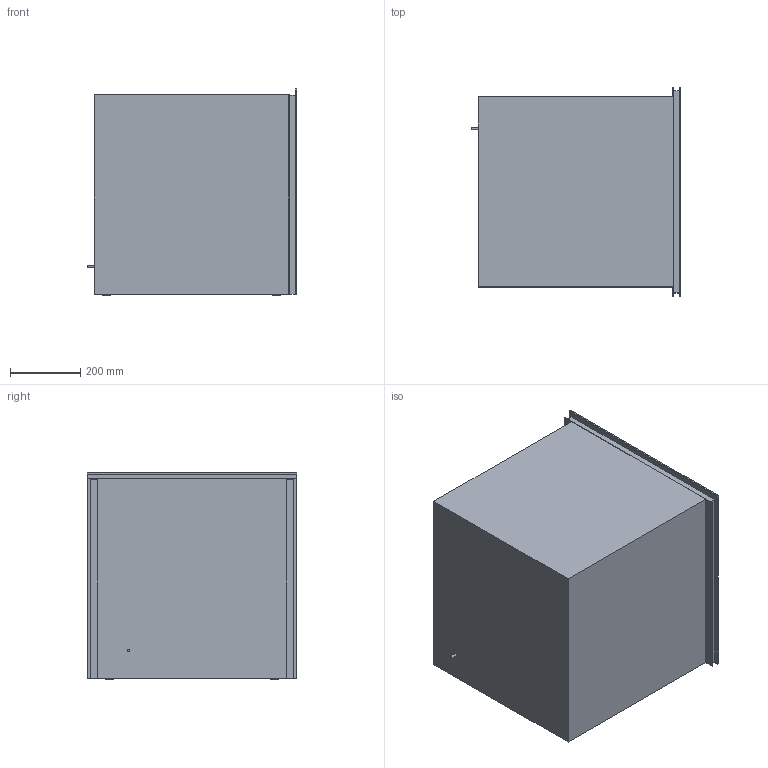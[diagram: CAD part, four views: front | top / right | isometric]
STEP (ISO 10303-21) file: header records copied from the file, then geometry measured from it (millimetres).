
FILE_DESCRIPTION(/* description */ (''),/* implementation_level */ '2;1');
FILE_NAME(/* name */ 'CVI629NR3.stp',/* time_stamp */ '2023-03-07T22:32:52+01:00',/* author */ (''),/* organization */ (''),/* preprocessor_version */ 'ST-DEVELOPER v16',/* originating_system */ 'SIEMENS PLM Software NX 11.0',/* authorisation */ '');
FILE_SCHEMA (('AUTOMOTIVE_DESIGN { 1 0 10303 214 3 1 1 1 }'));
Length unit declared in the file: millimetre
Products named in the file (1): Mart460469105fgt
Bounding box: 598.7 x 597 x 588.2 mm (x, y, z)
Volume: 179380931.4 mm3; surface area: 3337555.6 mm2
Topology: 15 solids, 15 shells, 121 faces, 258 edges, 172 vertices
Faces by surface type: plane 85, cylinder 25, extrusion 11
Full cylindrical faces by diameter (mm): 4.608 x6, 7 x1, 24 x4
Entity records: 3562 total; most frequent: CARTESIAN_POINT 844, DIRECTION 508, ORIENTED_EDGE 492, EDGE_CURVE 246, VECTOR 184, LINE 173, VERTEX_POINT 172, AXIS2_PLACEMENT_3D 162
